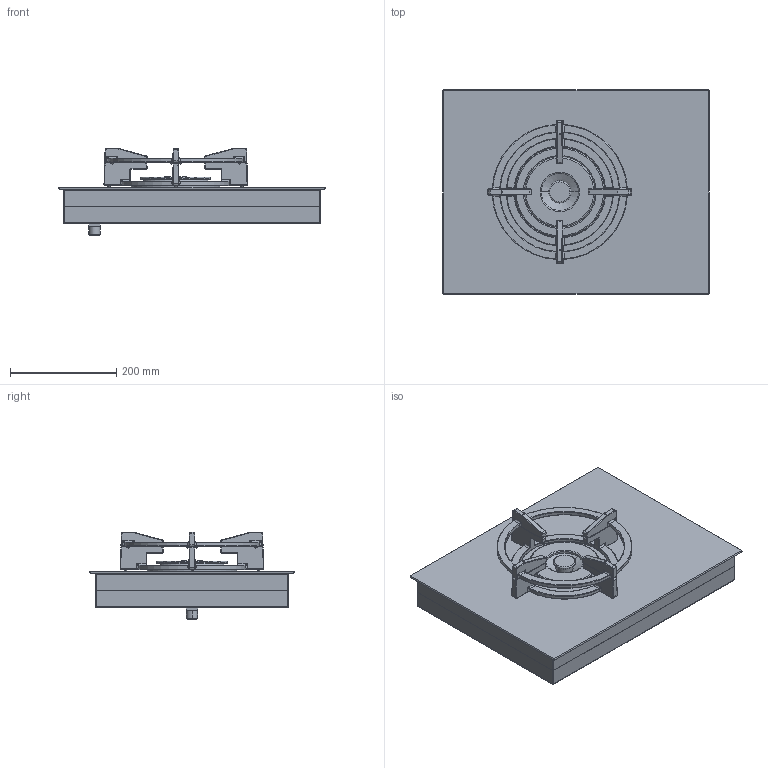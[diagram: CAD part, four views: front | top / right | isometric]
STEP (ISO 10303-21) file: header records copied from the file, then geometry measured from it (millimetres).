
FILE_DESCRIPTION((''),'2;1');
FILE_NAME('X3106360115-A','2016-05-11T',('Workstation1'),(''),'CREO PARAMETRIC BY PTC INC, 2015480','CREO PARAMETRIC BY PTC INC, 2015480','');
FILE_SCHEMA(('AUTOMOTIVE_DESIGN { 1 0 10303 214 1 1 1 1 }'));
Length unit declared in the file: millimetre
Products named in the file (12): PARTBODY; BODY_2; 1019913_-AA_1; 1019914_-AA_1; 1019938_-AA_1; 1019989_-AA_1; WOK-BASIS; WOK-AUFSATZ; BODY_4; 1019988_-AA_1; 1019993_-AA_1; X3106360115-A
Assembly tree (11 placements, depth 4):
  X3106360115-A
    1019993_-AA_1
      1019913_-AA_1
        PARTBODY
        BODY_2
      1019914_-AA_1
      1019938_-AA_1
      1019989_-AA_1
      1019988_-AA_1
        WOK-BASIS
        WOK-AUFSATZ
        BODY_4
Bounding box: 500.98 x 383.98 x 164.3 mm (x, y, z)
Volume: 1731441 mm3; surface area: 1479177.7 mm2
Topology: 8 solids, 8 shells, 598 faces, 1506 edges, 878 vertices
Faces by surface type: cylinder 222, bspline 166, plane 86, torus 68, sphere 40, cone 16
Entity records: 34037 total; most frequent: CARTESIAN_POINT 15524, ORIENTED_EDGE 2884, DIRECTION 2440, PRESENTATION_STYLE_ASSIGNMENT 1450, STYLED_ITEM 1450, CURVE_STYLE 1442, EDGE_CURVE 1442, AXIS2_PLACEMENT_3D 1033
